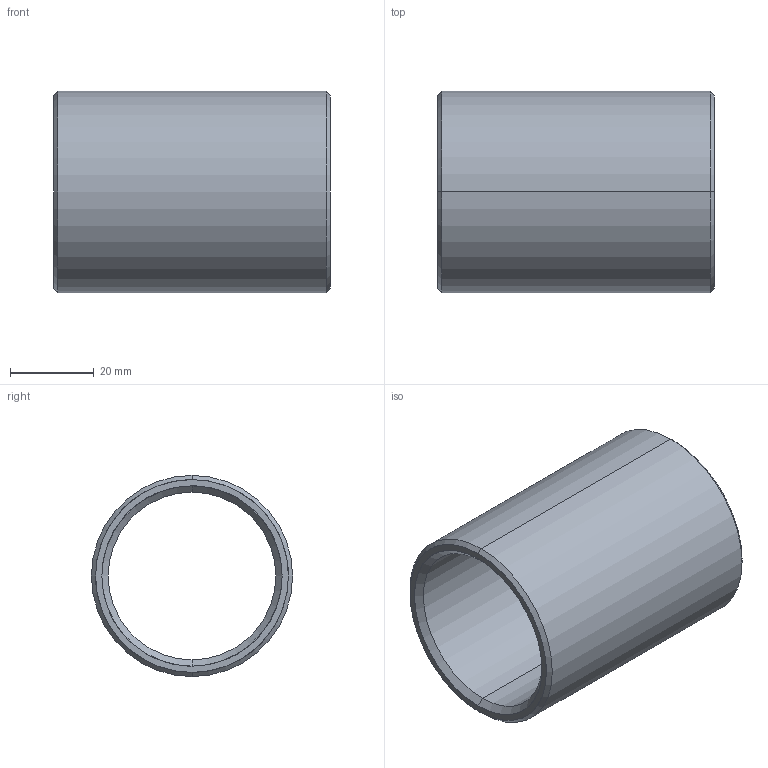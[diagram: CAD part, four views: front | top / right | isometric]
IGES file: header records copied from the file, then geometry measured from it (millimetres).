
Start section: START RECORD GO HERE.
Global section: file name: 352-40X66.igs; native system: DASSAULT SYSTEMES CATIA V5 R20 - www.3ds.com; preprocessor: CATIA Version 5 Release 20 ; author: Utente; organization: NB04-ASUS; date: 20210414.165418; units: millimetre
Bounding box: 66 x 48 x 48 mm (x, y, z)
Surface area: 19012 mm2 (no closed solid volume)
Topology: 0 solids, 0 shells, 14 faces, 88 edges, 88 vertices
Faces by surface type: revolution 12, plane 2
